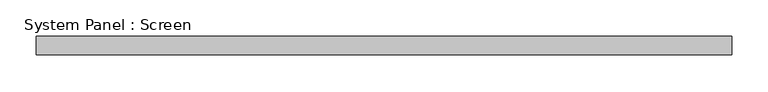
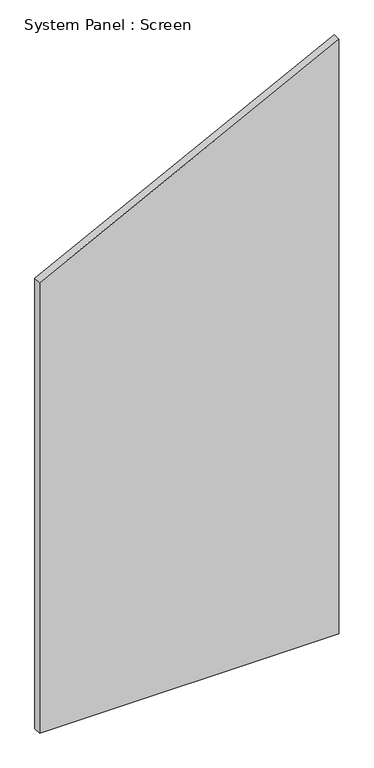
"""IFC4 building model written with IfcOpenShell, lengths in millimetres: plate geometry, System Panel : Screen."""

import ifcopenshell
import ifcopenshell.guid

model = None  # the IFC model being written
_history = None  # IfcOwnerHistory: only IFC2X3 demands one
_inside = {}  # id of a spatial element -> (the spatial element, [elements in it])
_under = {}  # id of a project, library or spatial element -> (it, [spatial elements below it])
_declared = {}  # id of a project -> (the project, [libraries it declares])
_typed = {}  # id of a type object -> (the type object, [elements of that type])
_made_of = {}  # id of a material, layer set ... -> (it, [elements and type objects made of it])


def new_model(schema):
    """Start an empty IFC model of exactly this schema.

    Asked for "IFC4X3", IfcOpenShell would pick the latest addendum, in which some entities
    have other attributes; the version numbers below select the first issue.
    IFC2X3 requires an IfcOwnerHistory on every rooted entity: one is made here for all.
    """
    global model, _history
    if schema == "IFC4X3":
        model = ifcopenshell.file(schema_version=(4, 3, 0, 0))
    else:
        model = ifcopenshell.file(schema=schema)
    _inside.clear()
    _under.clear()
    _declared.clear()
    _typed.clear()
    _made_of.clear()
    _history = None
    if model.schema == "IFC2X3":
        org = make("IfcOrganization", Name="unknown")
        user = make(
            "IfcPersonAndOrganization",
            ThePerson=make("IfcPerson", FamilyName="unknown"),
            TheOrganization=org,
        )
        app = make(
            "IfcApplication",
            ApplicationDeveloper=org,
            Version="unknown",
            ApplicationFullName="unknown",
            ApplicationIdentifier="unknown",
        )
        _history = make(
            "IfcOwnerHistory",
            OwningUser=user,
            OwningApplication=app,
            ChangeAction="ADDED",
            CreationDate=0,
        )
    return model


def make(cls, **values):
    """One entity of the class cls with the attributes given. An attribute that is None is left unset."""
    return model.create_entity(
        cls, **{name: value for name, value in values.items() if value is not None}
    )


def rooted(cls, **values):
    """An entity with a GlobalId (a new one), such as an element, a storey or a relation."""
    return make(cls, GlobalId=ifcopenshell.guid.new(), OwnerHistory=_history, **values)


def si_unit(unit_type, name, prefix=None):
    """IfcSIUnit, for example si_unit("LENGTHUNIT", "METRE", prefix="MILLI")."""
    return make("IfcSIUnit", UnitType=unit_type, Prefix=prefix, Name=name)


def assignment(units):
    """IfcUnitAssignment: the units of a project."""
    return None if units is None else make("IfcUnitAssignment", Units=units)


def point(xyz):
    """IfcCartesianPoint."""
    return None if xyz is None else make("IfcCartesianPoint", Coordinates=xyz)


def direction(xyz):
    """IfcDirection."""
    return None if xyz is None else make("IfcDirection", DirectionRatios=xyz)


def frame(location, z_axis=None, x_axis=None):
    """IfcAxis2Placement3D, a coordinate frame: its origin and axes. An axis left out is left unset."""
    return make(
        "IfcAxis2Placement3D",
        Location=point(location),
        Axis=direction(z_axis),
        RefDirection=direction(x_axis),
    )


def origin():
    """The frame at (0, 0, 0) with its axes left unset."""
    return frame((0.0, 0.0, 0.0))


def place(relative_to, where):
    """IfcLocalPlacement: puts the frame where relative to a parent placement (None: the world)."""
    return make(
        "IfcLocalPlacement", PlacementRelTo=relative_to, RelativePlacement=where
    )


def context(
    kind, dimensions, precision=None, world=None, true_north=None, identifier=None
):
    """IfcGeometricRepresentationContext, for example the 3D "Model" context."""
    return make(
        "IfcGeometricRepresentationContext",
        ContextIdentifier=identifier,
        ContextType=kind,
        CoordinateSpaceDimension=dimensions,
        Precision=precision,
        WorldCoordinateSystem=world,
        TrueNorth=true_north,
    )


def project(units=None, contexts=None):
    """IfcProject with its units and contexts."""
    return rooted(
        "IfcProject",
        Name="project",
        RepresentationContexts=contexts,
        UnitsInContext=assignment(units),
    )


def spatial(cls, under=None, at=None, **own):
    """A site, building, storey or space (cls), placed at a placement, below another one or the project."""
    s = rooted(cls, ObjectPlacement=at, **own)
    if under is not None:
        _under.setdefault(under.id(), (under, []))[1].append(s)
    return s


def polyline(points):
    """IfcPolyline through the points."""
    return make("IfcPolyline", Points=[point(p) for p in points])


def outline(outer, holes=None, kind="AREA"):
    """IfcArbitraryClosedProfileDef: a profile drawn as a closed curve; with holes, ...WithVoids."""
    if holes is None:
        return make("IfcArbitraryClosedProfileDef", ProfileType=kind, OuterCurve=outer)
    return make(
        "IfcArbitraryProfileDefWithVoids",
        ProfileType=kind,
        OuterCurve=outer,
        InnerCurves=holes,
    )


def extrude(swept, where, along, depth):
    """IfcExtrudedAreaSolid: the profile swept, set in the frame where, extruded along a direction by depth."""
    return make(
        "IfcExtrudedAreaSolid",
        SweptArea=swept,
        Position=where,
        ExtrudedDirection=direction(along),
        Depth=depth,
    )


def shape(context_of_items, identifier, shape_type, items):
    """IfcShapeRepresentation: the items that make up one representation, for example the "Body"."""
    return make(
        "IfcShapeRepresentation",
        ContextOfItems=context_of_items,
        RepresentationIdentifier=identifier,
        RepresentationType=shape_type,
        Items=items,
    )


def source(mapping_origin, context_of_items, identifier, shape_type, items):
    """IfcRepresentationMap: a shape defined once, which mapped items show again and again."""
    return make(
        "IfcRepresentationMap",
        MappingOrigin=mapping_origin,
        MappedRepresentation=shape(context_of_items, identifier, shape_type, items),
    )


def transform(
    local_origin,
    x_axis=None,
    y_axis=None,
    z_axis=None,
    scale=None,
    scale2=None,
    scale3=None,
    uniform=True,
):
    """IfcCartesianTransformationOperator3D, or its non-uniform kind. x_axis, y_axis, z_axis: its Axis1, 2, 3."""
    if uniform:
        return make(
            "IfcCartesianTransformationOperator3D",
            Axis1=direction(x_axis),
            Axis2=direction(y_axis),
            LocalOrigin=point(local_origin),
            Scale=scale,
            Axis3=direction(z_axis),
        )
    return make(
        "IfcCartesianTransformationOperator3DnonUniform",
        Axis1=direction(x_axis),
        Axis2=direction(y_axis),
        LocalOrigin=point(local_origin),
        Scale=scale,
        Axis3=direction(z_axis),
        Scale2=scale2,
        Scale3=scale3,
    )


def mapped(mapping_source, mapping_target):
    """IfcMappedItem: shows the shape of a source again, moved by a transform."""
    return make(
        "IfcMappedItem", MappingSource=mapping_source, MappingTarget=mapping_target
    )


def made_of(thing, what):
    """Note that an element or type object is made of a material, layer set ...; save() writes the relation."""
    if what is not None:
        _made_of.setdefault(what.id(), (what, []))[1].append(thing)
    return thing


def element(
    cls,
    number,
    at=None,
    inside=None,
    cuts=None,
    type_object=None,
    material=None,
    context=None,
    identifier="Body",
    shape_type=None,
    held_by="IfcProductDefinitionShape",
    body=None,
    shapes=None,
    **own,
):
    """One element of the class cls, such as IfcWall. Its Tag is "e" and its number.

    at: its placement. inside: the storey or other place that contains it. cuts: it is an
    opening in that element (IfcRelVoidsElement). A single representation is given by context,
    identifier, shape_type and body (its items); several are given by shapes. held_by: the class
    of the entity that holds the representations. save() writes the other relations.
    """
    e = rooted(cls, Tag="e%d" % number, ObjectPlacement=at, **own)
    if body is not None:
        shapes = [shape(context, identifier, shape_type, body)]
    if shapes is not None:
        e.Representation = make(held_by, Representations=shapes)
    if inside is not None:
        _inside.setdefault(inside.id(), (inside, []))[1].append(e)
    if cuts is not None:
        rooted(
            "IfcRelVoidsElement", RelatingBuildingElement=cuts, RelatedOpeningElement=e
        )
    if type_object is not None:
        _typed.setdefault(type_object.id(), (type_object, []))[1].append(e)
    return made_of(e, material)


def aggregate(whole, parts):
    """IfcRelAggregates: a whole, such as a stair, and the parts it consists of."""
    return rooted("IfcRelAggregates", RelatingObject=whole, RelatedObjects=parts)


def save(model, path):
    """Write the relations noted so far, then the file.

    IfcRelAggregates (storeys below a building ...), IfcRelContainedInSpatialStructure (elements
    in a storey), IfcRelDefinesByType, IfcRelAssociatesMaterial and IfcRelDeclares: one each for
    every whole, place, type object, material and project.
    """
    for whole, parts in _under.values():
        aggregate(whole, parts)
    for where, things in _inside.values():
        rooted(
            "IfcRelContainedInSpatialStructure",
            RelatedElements=things,
            RelatingStructure=where,
        )
    for kind, things in _typed.values():
        rooted("IfcRelDefinesByType", RelatedObjects=things, RelatingType=kind)
    for what, things in _made_of.values():
        rooted("IfcRelAssociatesMaterial", RelatedObjects=things, RelatingMaterial=what)
    for by, libraries in _declared.values():
        rooted("IfcRelDeclares", RelatingContext=by, RelatedDefinitions=libraries)
    model.write(path)


def system_panel_screen_257f5660(model_context):
    return source(origin(), model_context, "Body", "SweptSolid", [
        extrude(outline(polyline([(0.0, -477.393), (0.0, 477.393), (2004.0398217, 477.393), (1518.7058392, -477.393), (0.0, -477.393)])), frame((0.0, -12.7, 0.0), z_axis=(0.0, 1.0, 0.0), x_axis=(0.0, 0.0, 1.0)), (0.0, 0.0, 1.0), 25.4),
    ])


if __name__ == "__main__":
    model = new_model("IFC4")
    model_context = context("Model", 3, world=origin())
    ifc_project = project(units=[si_unit("LENGTHUNIT", "METRE", prefix="MILLI")], contexts=[model_context])
    site = spatial("IfcSite", under=ifc_project)
    building = spatial("IfcBuilding", under=site)
    placement = place(None, origin())
    system_panel_screen_shape = system_panel_screen_257f5660(model_context)
    element("IfcPlate", 1, ObjectType="System Panel : Screen", at=placement, inside=building, context=model_context, shape_type="MappedRepresentation", body=[
        mapped(system_panel_screen_shape, transform((0.0, 0.0, 0.0), x_axis=(1.0, 0.0, 0.0), y_axis=(0.0, 1.0, 0.0), z_axis=(0.0, 0.0, 1.0))),
    ])
    save(model, "model.ifc")
